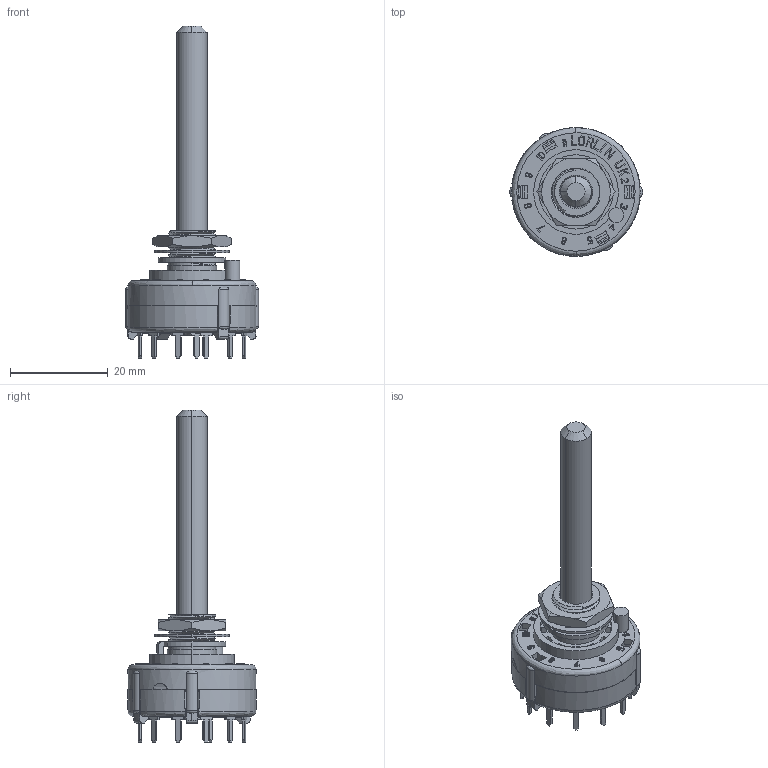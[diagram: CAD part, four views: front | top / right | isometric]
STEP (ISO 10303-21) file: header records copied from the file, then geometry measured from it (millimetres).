
FILE_DESCRIPTION (( 'STEP AP214' ), '1' );
FILE_NAME ('User Library-LORLIN CK1049.STEP', '2026-01-29T22:26:58', ( '' ), ( '' ), 'SwSTEP 2.0', 'SolidWorks 2022', '' );
FILE_SCHEMA (( 'AUTOMOTIVE_DESIGN' ));
Length unit declared in the file: millimetre
Products named in the file (3): User Library-LORLIN CK1049; Pin; ck1049
Assembly tree (16 placements, depth 2):
  User Library-LORLIN CK1049
    ck1049
    Pin  x15
Bounding box: 27.22 x 26.34 x 67.89 mm (x, y, z)
Volume: 5977 mm3; surface area: 9005.2 mm2
Topology: 23 solids, 23 shells, 2190 faces, 6187 edges, 4120 vertices
Faces by surface type: plane 1820, cylinder 284, bspline 50, cone 36
Entity records: 89676 total; most frequent: CARTESIAN_POINT 19073, ORIENTED_EDGE 10862, DIRECTION 9249, EDGE_CURVE 5431, VECTOR 4539, LINE 4539, VERTEX_POINT 3616, AXIS2_PLACEMENT_3D 2355
